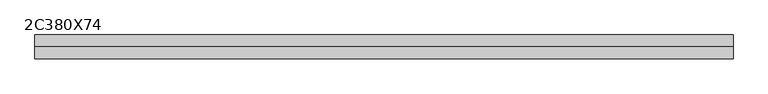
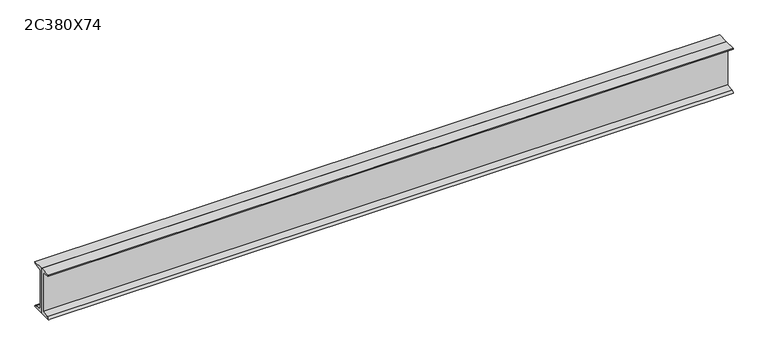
"""IFC4 building model written with IfcOpenShell, lengths in millimetres: beam geometry, Profilato a doppia C : 2C380X74."""

from ifc_helpers import new_model, si_unit, point, frame, frame_2d, origin, place, context, project, spatial, polyline, circle_curve, trimmed, segment, composite_curve, outline, extrude, source, transform, mapped, element, save


def beam_2c380x74_f030002c(model_context):
    return source(origin(), model_context, "Body", "SweptSolid", [
        extrude(outline(composite_curve([segment(polyline([(0.0, 190.5), (0.0, -190.5), (-94.4, -190.5)]), True, "CONTINUOUS"), segment(trimmed(circle_curve(frame_2d((-77.9, -190.5)), 16.5), [point((-94.4, -190.5))], [point((-77.9, -174.0))], False, "CARTESIAN"), True, "CONTINUOUS"), segment(polyline([(-77.9, -174.0), (-18.2, -164.5444489), (-18.2, 164.5444489), (-77.9, 174.0)]), True, "CONTINUOUS"), segment(trimmed(circle_curve(frame_2d((-77.9, 190.5)), 16.5), [point((-77.9, 174.0))], [point((-94.4, 190.5))], False, "CARTESIAN"), True, "CONTINUOUS"), segment(polyline([(-94.4, 190.5), (0.0, 190.5)]), True, "CONTINUOUS")], self_intersect=False)), frame((-2750.0, 0.0, 0.0), z_axis=(1.0, 0.0, 0.0), x_axis=(0.0, 1.0, 0.0)), (0.0, 0.0, 1.0), 5500.0),
        extrude(outline(composite_curve([segment(polyline([(0.0, 190.5), (94.4, 190.5)]), True, "CONTINUOUS"), segment(trimmed(circle_curve(frame_2d((77.9, 190.5)), 16.5), [point((94.4, 190.5))], [point((77.9, 174.0))], False, "CARTESIAN"), True, "CONTINUOUS"), segment(polyline([(77.9, 174.0), (18.2, 164.5444489), (18.2, -164.5444489), (77.9, -174.0)]), True, "CONTINUOUS"), segment(trimmed(circle_curve(frame_2d((77.9, -190.5)), 16.5), [point((77.9, -174.0))], [point((94.4, -190.5))], False, "CARTESIAN"), True, "CONTINUOUS"), segment(polyline([(94.4, -190.5), (0.0, -190.5), (0.0, 190.5)]), True, "CONTINUOUS")], self_intersect=False)), frame((-2750.0, 0.0, 0.0), z_axis=(1.0, 0.0, 0.0), x_axis=(0.0, 1.0, 0.0)), (0.0, 0.0, 1.0), 5500.0),
    ])


if __name__ == "__main__":
    model = new_model("IFC4")
    model_context = context("Model", 3, world=origin())
    ifc_project = project(units=[si_unit("LENGTHUNIT", "METRE", prefix="MILLI")], contexts=[model_context])
    site = spatial("IfcSite", under=ifc_project)
    building = spatial("IfcBuilding", under=site)
    placement = place(None, origin())
    beam_2c380x74_shape = beam_2c380x74_f030002c(model_context)
    element("IfcBeam", 1, ObjectType="Profilato a doppia C : 2C380X74", at=placement, inside=building, context=model_context, shape_type="MappedRepresentation", body=[
        mapped(beam_2c380x74_shape, transform((0.0, 0.0, 0.0), x_axis=(1.0, 0.0, 0.0), y_axis=(0.0, 1.0, 0.0), z_axis=(0.0, 0.0, 1.0))),
    ])
    save(model, "model.ifc")
